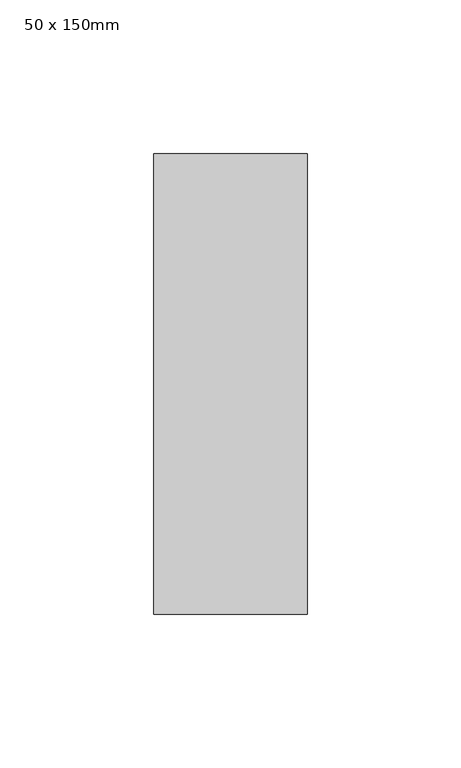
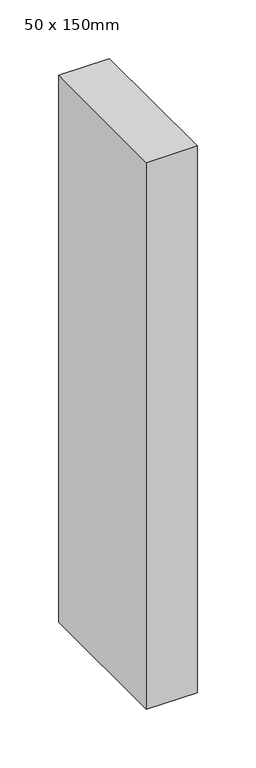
"""IFC4 building model written with IfcOpenShell, lengths in millimetres: member geometry, Прямоугольный импост : 50 x 150mm."""

from ifc_helpers import new_model, si_unit, frame, origin, place, context, project, spatial, polyline, outline, extrude, source, transform, mapped, element, save


def member_50_x_150mm_eabacb92(model_context):
    return source(origin(), model_context, "Body", "SweptSolid", [
        extrude(outline(polyline([(0.0, 75.0), (0.0, -75.0), (-50.0, -75.0), (-50.0, 75.0), (0.0, 75.0)])), frame((0.0, 0.0, -570.0), z_axis=(0.0, 0.0, 1.0), x_axis=(1.0, 0.0, 0.0)), (0.0, 0.0, 1.0), 570.0),
    ])


if __name__ == "__main__":
    model = new_model("IFC4")
    model_context = context("Model", 3, world=origin())
    ifc_project = project(units=[si_unit("LENGTHUNIT", "METRE", prefix="MILLI")], contexts=[model_context])
    site = spatial("IfcSite", under=ifc_project)
    building = spatial("IfcBuilding", under=site)
    placement = place(None, origin())
    member_50_x_150mm_shape = member_50_x_150mm_eabacb92(model_context)
    element("IfcMember", 1, ObjectType="Прямоугольный импост : 50 x 150mm", at=placement, inside=building, context=model_context, shape_type="MappedRepresentation", body=[
        mapped(member_50_x_150mm_shape, transform((0.0, 0.0, 0.0), x_axis=(1.0, 0.0, 0.0), y_axis=(0.0, 1.0, 0.0), z_axis=(0.0, 0.0, 1.0))),
    ])
    save(model, "model.ifc")
